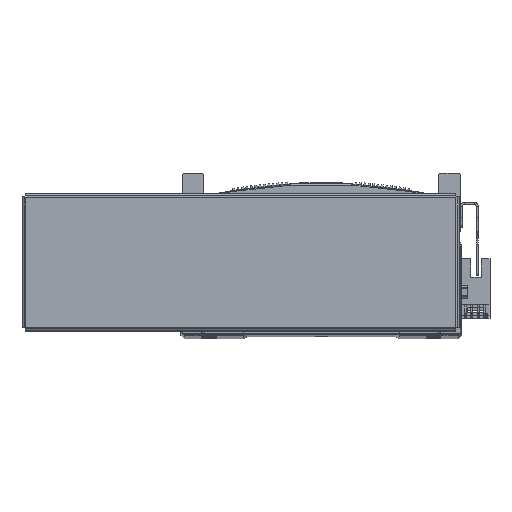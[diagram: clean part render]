
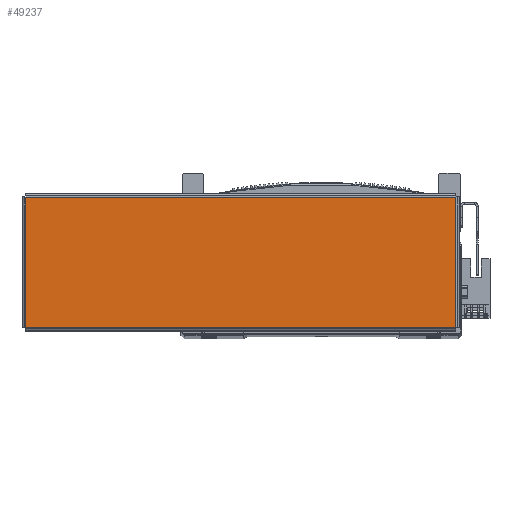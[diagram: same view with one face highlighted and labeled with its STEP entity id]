
A CAD part, top view. The second image highlights one B-rep face of the part: STEP entity #49237.
In plain terms, the highlighted planar face has unit normal (0, 0, 1) as drawn and (0, -1, 0) by its records, which use the part's own axes.
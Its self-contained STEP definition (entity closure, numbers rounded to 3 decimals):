
#160 = CARTESIAN_POINT ( 'NONE',  ( -103.543, -1., -31.363 ) ) ;
#161 = DIRECTION ( 'NONE',  ( 1., 0., 0. ) ) ;
#953 = DIRECTION ( 'NONE',  ( -1., 0., 0. ) ) ;
#961 = CARTESIAN_POINT ( 'NONE',  ( 103.543, -1., 31.363 ) ) ;
#1085 = CARTESIAN_POINT ( 'NONE',  ( 103.513, -1., -31.393 ) ) ;
#1101 = CARTESIAN_POINT ( 'NONE',  ( -103.513, -1., 31.393 ) ) ;
#1111 = DIRECTION ( 'NONE',  ( 0., 0., 1. ) ) ;
#1125 = DIRECTION ( 'NONE',  ( 0., 0., -1. ) ) ;
#12464 = DIRECTION ( 'NONE',  ( 0., 0., 1. ) ) ;
#12493 = PLANE ( 'NONE',  #18178 ) ;
#12525 = DIRECTION ( 'NONE',  ( 0., 1., 0. ) ) ;
#12542 = CARTESIAN_POINT ( 'NONE',  ( 0., -1., 0. ) ) ;
#13837 = EDGE_CURVE ( 'NONE', #27503, #27456, #51262, .T. ) ;
#13883 = EDGE_CURVE ( 'NONE', #27559, #27503, #51316, .T. ) ;
#13887 = EDGE_CURVE ( 'NONE', #27456, #27463, #51329, .T. ) ;
#13895 = EDGE_CURVE ( 'NONE', #27463, #27559, #51334, .T. ) ;
#18178 = AXIS2_PLACEMENT_3D ( 'NONE', #12542, #12525, #12464 ) ;
#20482 = FACE_OUTER_BOUND ( 'NONE', #47740, .T. ) ;
#27456 = VERTEX_POINT ( 'NONE', #73339 ) ;
#27463 = VERTEX_POINT ( 'NONE', #73251 ) ;
#27503 = VERTEX_POINT ( 'NONE', #73389 ) ;
#27559 = VERTEX_POINT ( 'NONE', #73431 ) ;
#47740 = EDGE_LOOP ( 'NONE', ( #69221, #69233, #69256, #69249 ) ) ;
#49237 = ADVANCED_FACE ( 'NONE', ( #20482 ), #12493, .F. ) ;
#51262 = LINE ( 'NONE', #961, #51281 ) ;
#51281 = VECTOR ( 'NONE', #953, 1000. ) ;
#51316 = LINE ( 'NONE', #1085, #51358 ) ;
#51329 = LINE ( 'NONE', #1101, #51371 ) ;
#51334 = LINE ( 'NONE', #160, #51336 ) ;
#51336 = VECTOR ( 'NONE', #161, 1000. ) ;
#51358 = VECTOR ( 'NONE', #1111, 1000. ) ;
#51371 = VECTOR ( 'NONE', #1125, 1000. ) ;
#69221 = ORIENTED_EDGE ( 'NONE', *, *, #13837, .T. ) ;
#69233 = ORIENTED_EDGE ( 'NONE', *, *, #13887, .T. ) ;
#69249 = ORIENTED_EDGE ( 'NONE', *, *, #13883, .T. ) ;
#69256 = ORIENTED_EDGE ( 'NONE', *, *, #13895, .T. ) ;
#73251 = CARTESIAN_POINT ( 'NONE',  ( -103.513, -1., -31.363 ) ) ;
#73339 = CARTESIAN_POINT ( 'NONE',  ( -103.513, -1., 31.363 ) ) ;
#73389 = CARTESIAN_POINT ( 'NONE',  ( 103.513, -1., 31.363 ) ) ;
#73431 = CARTESIAN_POINT ( 'NONE',  ( 103.513, -1., -31.363 ) ) ;
